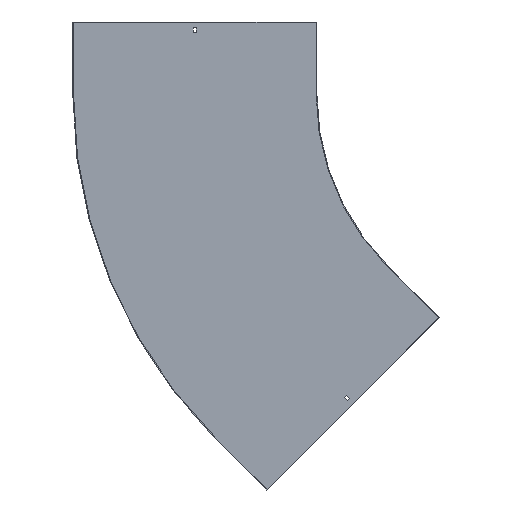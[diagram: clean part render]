
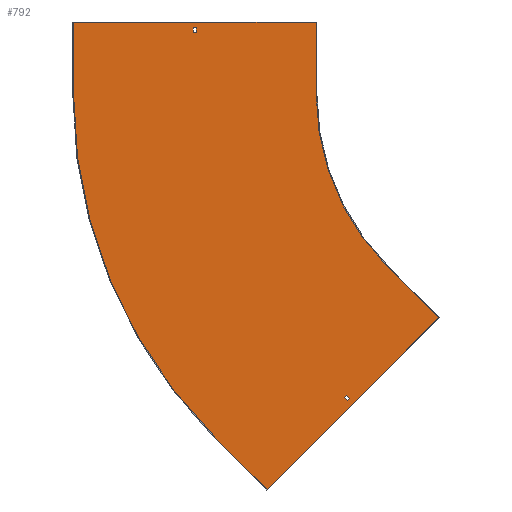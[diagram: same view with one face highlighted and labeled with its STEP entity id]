
A CAD part, front view. The second image highlights one B-rep face of the part: STEP entity #792.
In plain terms, the highlighted planar face has unit normal (0, -1, 0).
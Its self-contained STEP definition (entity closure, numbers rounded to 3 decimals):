
#4 = CARTESIAN_POINT ( 'NONE',  ( -247.487, -1.5, -459.619 ) ) ;
#23 = CARTESIAN_POINT ( 'NONE',  ( -435.047, -1.5, -630.209 ) ) ;
#32 = ORIENTED_EDGE ( 'NONE', *, *, #438, .F. ) ;
#35 = VERTEX_POINT ( 'NONE', #4 ) ;
#36 = VERTEX_POINT ( 'NONE', #357 ) ;
#37 = CARTESIAN_POINT ( 'NONE',  ( 91.217, -1.5, -91.217 ) ) ;
#51 = LINE ( 'NONE', #523, #439 ) ;
#55 = EDGE_CURVE ( 'NONE', #110, #94, #362, .T. ) ;
#62 = ORIENTED_EDGE ( 'NONE', *, *, #413, .F. ) ;
#79 = VERTEX_POINT ( 'NONE', #555 ) ;
#82 = DIRECTION ( 'NONE',  ( 0.707, 0., -0.707 ) ) ;
#84 = CARTESIAN_POINT ( 'NONE',  ( -500., -1.5, 150. ) ) ;
#87 = LINE ( 'NONE', #434, #479 ) ;
#91 = CARTESIAN_POINT ( 'NONE',  ( -500., -1.5, 150. ) ) ;
#93 = VERTEX_POINT ( 'NONE', #622 ) ;
#94 = VERTEX_POINT ( 'NONE', #207 ) ;
#96 = CARTESIAN_POINT ( 'NONE',  ( -746.75, -1.5, 138. ) ) ;
#98 = VERTEX_POINT ( 'NONE', #23 ) ;
#99 = ORIENTED_EDGE ( 'NONE', *, *, #55, .T. ) ;
#101 = CARTESIAN_POINT ( 'NONE',  ( -707.107, -1.5, -707.107 ) ) ;
#102 = LINE ( 'NONE', #187, #551 ) ;
#110 = VERTEX_POINT ( 'NONE', #850 ) ;
#126 = AXIS2_PLACEMENT_3D ( 'NONE', #181, #519, #455 ) ;
#137 = ORIENTED_EDGE ( 'NONE', *, *, #238, .F. ) ;
#158 = EDGE_CURVE ( 'NONE', #35, #663, #637, .T. ) ;
#164 = LINE ( 'NONE', #690, #450 ) ;
#178 = DIRECTION ( 'NONE',  ( 0., 0., 1. ) ) ;
#181 = CARTESIAN_POINT ( 'NONE',  ( 0., -1.5, 0. ) ) ;
#182 = DIRECTION ( 'NONE',  ( 0., 0., -1. ) ) ;
#185 = CARTESIAN_POINT ( 'NONE',  ( -528.032, -1.5, -528.032 ) ) ;
#187 = CARTESIAN_POINT ( 'NONE',  ( -1000., -1.5, 0. ) ) ;
#192 = VECTOR ( 'NONE', #552, 1000. ) ;
#207 = CARTESIAN_POINT ( 'NONE',  ( -753.25, -1.5, 129. ) ) ;
#210 = PLANE ( 'NONE',  #808 ) ;
#221 = ORIENTED_EDGE ( 'NONE', *, *, #459, .F. ) ;
#223 = VERTEX_POINT ( 'NONE', #96 ) ;
#230 = DIRECTION ( 'NONE',  ( 1., 0., 0. ) ) ;
#232 = EDGE_CURVE ( 'NONE', #36, #223, #87, .T. ) ;
#236 = DIRECTION ( 'NONE',  ( 0., 0., -1. ) ) ;
#238 = EDGE_CURVE ( 'NONE', #510, #98, #632, .T. ) ;
#248 = CARTESIAN_POINT ( 'NONE',  ( -1001.5, -1.5, 150. ) ) ;
#251 = LINE ( 'NONE', #248, #582 ) ;
#261 = VECTOR ( 'NONE', #718, 1000. ) ;
#267 = LINE ( 'NONE', #703, #329 ) ;
#273 = FACE_BOUND ( 'NONE', #618, .T. ) ;
#274 = EDGE_CURVE ( 'NONE', #401, #93, #585, .T. ) ;
#289 = CARTESIAN_POINT ( 'NONE',  ( -532.628, -1.5, -532.628 ) ) ;
#295 = EDGE_CURVE ( 'NONE', #735, #612, #593, .T. ) ;
#308 = VERTEX_POINT ( 'NONE', #91 ) ;
#315 = CARTESIAN_POINT ( 'NONE',  ( -246.427, -1.5, -458.559 ) ) ;
#325 = ORIENTED_EDGE ( 'NONE', *, *, #295, .F. ) ;
#329 = VECTOR ( 'NONE', #469, 1000. ) ;
#334 = EDGE_CURVE ( 'NONE', #536, #308, #251, .T. ) ;
#347 = ORIENTED_EDGE ( 'NONE', *, *, #397, .F. ) ;
#357 = CARTESIAN_POINT ( 'NONE',  ( -753.25, -1.5, 138. ) ) ;
#359 = CARTESIAN_POINT ( 'NONE',  ( 0., -1.5, 0. ) ) ;
#362 = LINE ( 'NONE', #799, #192 ) ;
#365 = VECTOR ( 'NONE', #82, 1000. ) ;
#367 = ORIENTED_EDGE ( 'NONE', *, *, #666, .F. ) ;
#370 = DIRECTION ( 'NONE',  ( -0.707, 0., 0.707 ) ) ;
#397 = EDGE_CURVE ( 'NONE', #663, #532, #164, .T. ) ;
#401 = VERTEX_POINT ( 'NONE', #766 ) ;
#404 = FACE_BOUND ( 'NONE', #852, .T. ) ;
#413 = EDGE_CURVE ( 'NONE', #532, #79, #657, .T. ) ;
#431 = DIRECTION ( 'NONE',  ( 0., -1., 0. ) ) ;
#434 = CARTESIAN_POINT ( 'NONE',  ( 0., -1.5, 138. ) ) ;
#438 = EDGE_CURVE ( 'NONE', #93, #510, #691, .T. ) ;
#439 = VECTOR ( 'NONE', #779, 1000. ) ;
#449 = ORIENTED_EDGE ( 'NONE', *, *, #158, .F. ) ;
#450 = VECTOR ( 'NONE', #370, 1000. ) ;
#455 = DIRECTION ( 'NONE',  ( 0., 0., -1. ) ) ;
#459 = EDGE_CURVE ( 'NONE', #98, #401, #722, .T. ) ;
#469 = DIRECTION ( 'NONE',  ( 0., 0., 1. ) ) ;
#471 = EDGE_CURVE ( 'NONE', #223, #110, #773, .T. ) ;
#479 = VECTOR ( 'NONE', #230, 1000. ) ;
#485 = CARTESIAN_POINT ( 'NONE',  ( 0., -1.5, 0. ) ) ;
#487 = VECTOR ( 'NONE', #182, 1000. ) ;
#490 = VECTOR ( 'NONE', #711, 1000. ) ;
#503 = VECTOR ( 'NONE', #533, 1000. ) ;
#510 = VERTEX_POINT ( 'NONE', #778 ) ;
#513 = EDGE_CURVE ( 'NONE', #94, #36, #267, .T. ) ;
#518 = AXIS2_PLACEMENT_3D ( 'NONE', #359, #742, #619 ) ;
#519 = DIRECTION ( 'NONE',  ( 0., 1., 0. ) ) ;
#523 = CARTESIAN_POINT ( 'NONE',  ( -353.553, -1.5, -353.553 ) ) ;
#532 = VERTEX_POINT ( 'NONE', #101 ) ;
#533 = DIRECTION ( 'NONE',  ( 0.707, 0., 0.707 ) ) ;
#536 = VERTEX_POINT ( 'NONE', #580 ) ;
#541 = VECTOR ( 'NONE', #573, 1000. ) ;
#551 = VECTOR ( 'NONE', #178, 1000. ) ;
#552 = DIRECTION ( 'NONE',  ( -1., 0., 0. ) ) ;
#553 = ORIENTED_EDGE ( 'NONE', *, *, #471, .T. ) ;
#555 = CARTESIAN_POINT ( 'NONE',  ( -1000., -1.5, 0. ) ) ;
#558 = ORIENTED_EDGE ( 'NONE', *, *, #856, .F. ) ;
#573 = DIRECTION ( 'NONE',  ( -0.707, 0., -0.707 ) ) ;
#580 = CARTESIAN_POINT ( 'NONE',  ( -1000., -1.5, 150. ) ) ;
#582 = VECTOR ( 'NONE', #828, 1000. ) ;
#585 = LINE ( 'NONE', #185, #490 ) ;
#586 = ORIENTED_EDGE ( 'NONE', *, *, #513, .T. ) ;
#593 = CIRCLE ( 'NONE', #518, 500. ) ;
#596 = CARTESIAN_POINT ( 'NONE',  ( 97.581, -1.5, -97.581 ) ) ;
#602 = VECTOR ( 'NONE', #236, 1000. ) ;
#612 = VERTEX_POINT ( 'NONE', #803 ) ;
#618 = EDGE_LOOP ( 'NONE', ( #736, #221, #137, #32 ) ) ;
#619 = DIRECTION ( 'NONE',  ( 0., 0., -1. ) ) ;
#622 = CARTESIAN_POINT ( 'NONE',  ( -436.815, -1.5, -619.249 ) ) ;
#632 = LINE ( 'NONE', #289, #365 ) ;
#637 = LINE ( 'NONE', #315, #261 ) ;
#657 = CIRCLE ( 'NONE', #126, 1000. ) ;
#663 = VERTEX_POINT ( 'NONE', #709 ) ;
#666 = EDGE_CURVE ( 'NONE', #79, #536, #102, .T. ) ;
#667 = ORIENTED_EDGE ( 'NONE', *, *, #334, .F. ) ;
#678 = EDGE_LOOP ( 'NONE', ( #667, #367, #62, #347, #449, #790, #325, #558 ) ) ;
#681 = LINE ( 'NONE', #84, #602 ) ;
#690 = CARTESIAN_POINT ( 'NONE',  ( -601.041, -1.5, -813.173 ) ) ;
#691 = LINE ( 'NONE', #37, #541 ) ;
#694 = DIRECTION ( 'NONE',  ( 0., 0., -1. ) ) ;
#703 = CARTESIAN_POINT ( 'NONE',  ( -753.25, -1.5, 0. ) ) ;
#709 = CARTESIAN_POINT ( 'NONE',  ( -601.041, -1.5, -813.173 ) ) ;
#711 = DIRECTION ( 'NONE',  ( -0.707, 0., 0.707 ) ) ;
#718 = DIRECTION ( 'NONE',  ( -0.707, 0., -0.707 ) ) ;
#722 = LINE ( 'NONE', #596, #503 ) ;
#724 = EDGE_CURVE ( 'NONE', #612, #35, #51, .T. ) ;
#735 = VERTEX_POINT ( 'NONE', #745 ) ;
#736 = ORIENTED_EDGE ( 'NONE', *, *, #274, .F. ) ;
#742 = DIRECTION ( 'NONE',  ( 0., -1., 0. ) ) ;
#745 = CARTESIAN_POINT ( 'NONE',  ( -500., -1.5, 0. ) ) ;
#766 = CARTESIAN_POINT ( 'NONE',  ( -430.451, -1.5, -625.613 ) ) ;
#773 = LINE ( 'NONE', #861, #487 ) ;
#778 = CARTESIAN_POINT ( 'NONE',  ( -441.411, -1.5, -623.845 ) ) ;
#779 = DIRECTION ( 'NONE',  ( 0.707, 0., -0.707 ) ) ;
#790 = ORIENTED_EDGE ( 'NONE', *, *, #724, .F. ) ;
#792 = ADVANCED_FACE ( 'NONE', ( #273, #802, #404 ), #210, .T. ) ;
#799 = CARTESIAN_POINT ( 'NONE',  ( 0., -1.5, 129. ) ) ;
#802 = FACE_OUTER_BOUND ( 'NONE', #678, .T. ) ;
#803 = CARTESIAN_POINT ( 'NONE',  ( -353.553, -1.5, -353.553 ) ) ;
#808 = AXIS2_PLACEMENT_3D ( 'NONE', #485, #431, #694 ) ;
#820 = ORIENTED_EDGE ( 'NONE', *, *, #232, .T. ) ;
#828 = DIRECTION ( 'NONE',  ( 1., 0., 0. ) ) ;
#850 = CARTESIAN_POINT ( 'NONE',  ( -746.75, -1.5, 129. ) ) ;
#852 = EDGE_LOOP ( 'NONE', ( #820, #553, #99, #586 ) ) ;
#856 = EDGE_CURVE ( 'NONE', #308, #735, #681, .T. ) ;
#861 = CARTESIAN_POINT ( 'NONE',  ( -746.75, -1.5, 0. ) ) ;
